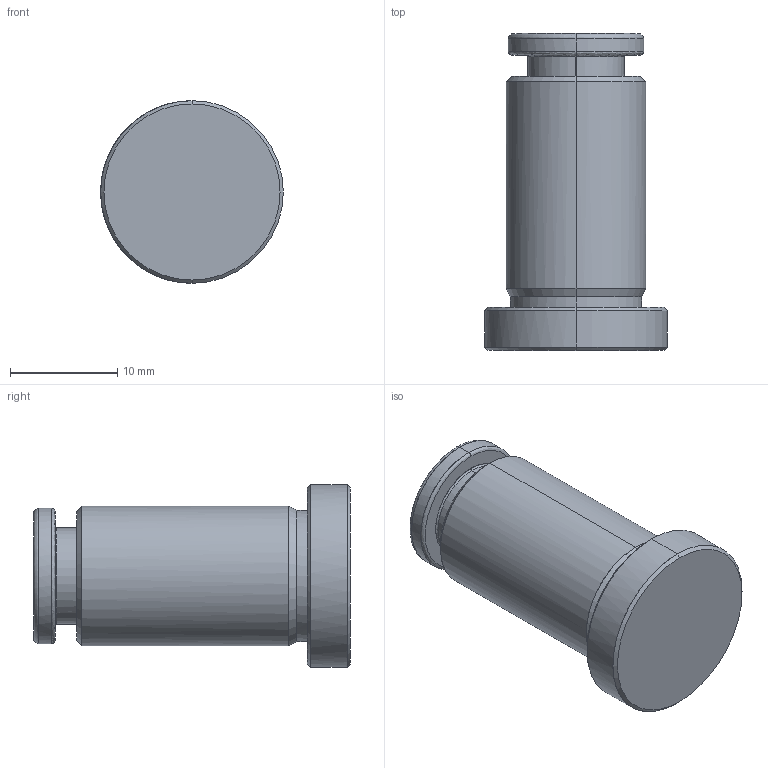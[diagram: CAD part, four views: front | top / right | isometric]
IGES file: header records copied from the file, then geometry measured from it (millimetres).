
Start section: START RECORD GO HERE.
Global section: file name: be051317.igs; native system: DASSAULT SYSTEMES CATIA V5 R20 - www.3ds.com; preprocessor: CATIA Version 5 Release 20 ; author: Utente; organization: NB04-ASUS; date: 20201103.203907; units: millimetre
Bounding box: 17 x 29.5 x 17 mm (x, y, z)
Surface area: 3763.5 mm2 (no closed solid volume)
Topology: 0 solids, 0 shells, 236 faces, 1100 edges, 1058 vertices
Faces by surface type: revolution 156, bspline 66, plane 14
